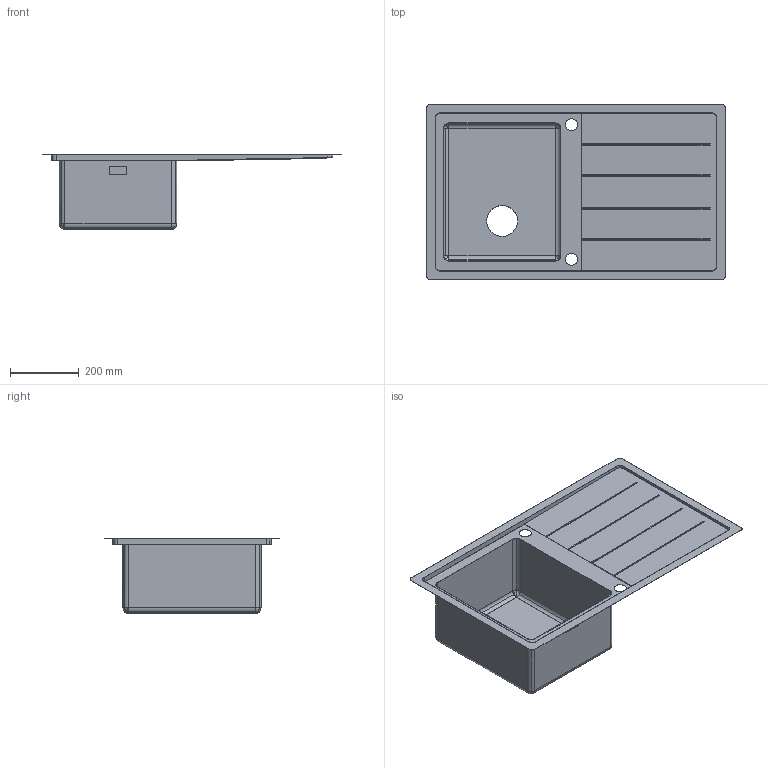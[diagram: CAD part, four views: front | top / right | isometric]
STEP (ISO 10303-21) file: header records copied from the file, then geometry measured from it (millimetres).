
FILE_DESCRIPTION(('CATIA V5 STEP Exchange'),'2;1');
FILE_NAME('C:\Users\linop\Desktop\LFT861S.stp','2018-05-24T12:13:34+00:00',('none'),('none'),'CATIA Version 5-6 Release 2014','CATIA V5 STEP AP203','none');
FILE_SCHEMA(('CONFIG_CONTROL_DESIGN'));
Length unit declared in the file: millimetre
Products named in the file (1): LFT861S
Bounding box: 870 x 510 x 217.8 mm (x, y, z)
Volume: 685127 mm3; surface area: 1513404 mm2
Topology: 2 solids, 2 shells, 121 faces, 322 edges, 192 vertices
Faces by surface type: cylinder 58, plane 47, sphere 16
Entity records: 3827 total; most frequent: CARTESIAN_POINT 948, ORIENTED_EDGE 612, DIRECTION 512, EDGE_CURVE 306, AXIS2_PLACEMENT_3D 220, VERTEX_POINT 192, VECTOR 178, LINE 178
